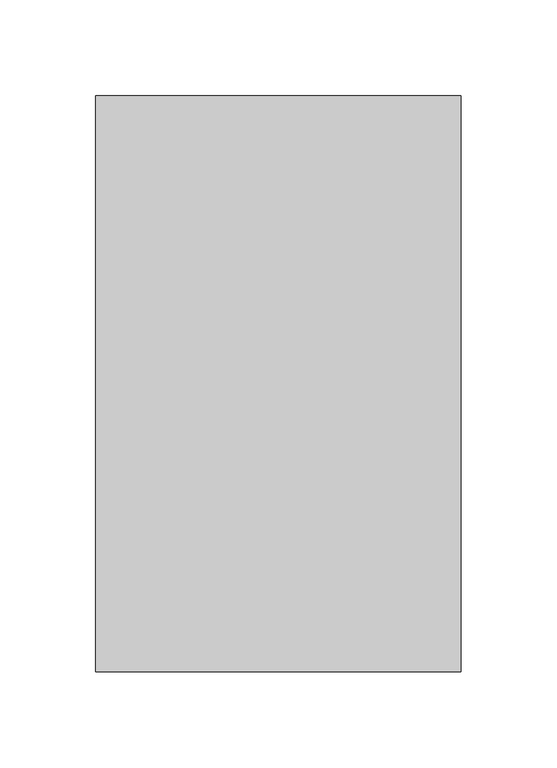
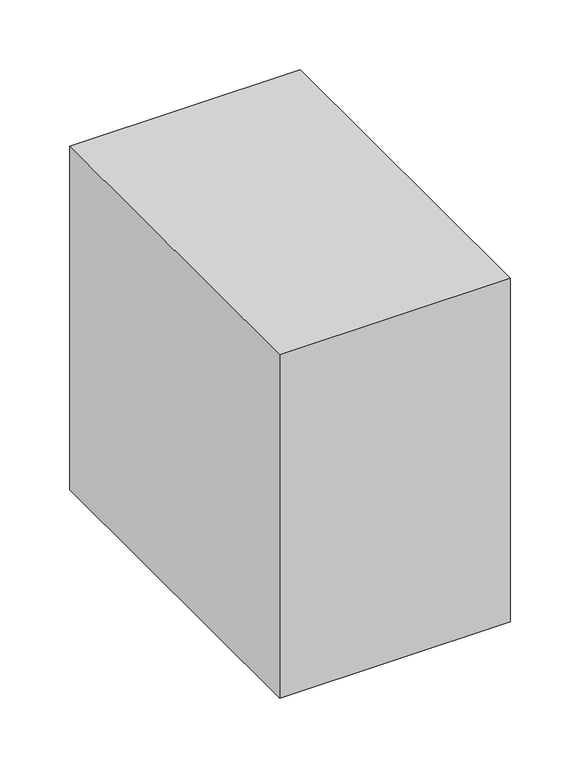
"""IFC4 building model written with IfcOpenShell, lengths in millimetres: duct fitting geometry, M_Encaixe de duto retangular : Padrão."""

from ifc_helpers import new_model, si_unit, frame, origin, place, context, project, spatial, polyline, outline, extrude, source, transform, mapped, element, save


def duct_fitting_550a0fe9(model_context):
    return source(origin(), model_context, "Body", "SweptSolid", [
        extrude(outline(polyline([(-88.6947355, -150.0), (-88.6947355, 150.0), (101.6, 150.0), (101.6, -150.0), (-88.6947355, -150.0)])), frame((0.0, 0.0, -150.0), z_axis=(0.0, 0.0, 1.0), x_axis=(1.0, 0.0, 0.0)), (0.0, 0.0, 1.0), 300.0),
    ])


if __name__ == "__main__":
    model = new_model("IFC4")
    model_context = context("Model", 3, world=origin())
    ifc_project = project(units=[si_unit("LENGTHUNIT", "METRE", prefix="MILLI")], contexts=[model_context])
    site = spatial("IfcSite", under=ifc_project)
    building = spatial("IfcBuilding", under=site)
    placement = place(None, origin())
    duct_fitting_shape = duct_fitting_550a0fe9(model_context)
    element("IfcDuctFitting", 1, ObjectType="M_Encaixe de duto retangular : Padrão", at=placement, inside=building, context=model_context, shape_type="MappedRepresentation", body=[
        mapped(duct_fitting_shape, transform((0.0, 0.0, 0.0), x_axis=(1.0, 0.0, 0.0), y_axis=(0.0, 1.0, 0.0), z_axis=(0.0, 0.0, 1.0))),
    ])
    save(model, "model.ifc")
